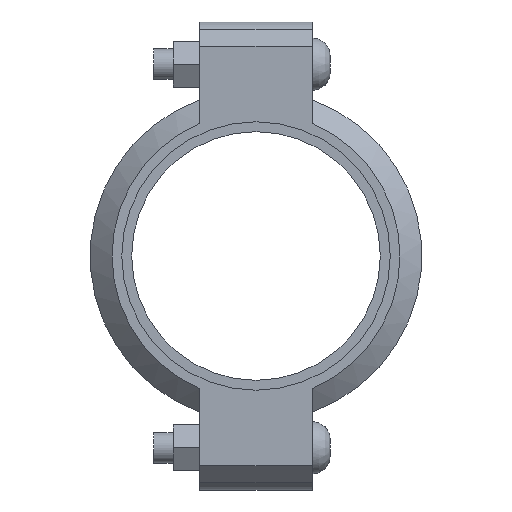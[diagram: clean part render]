
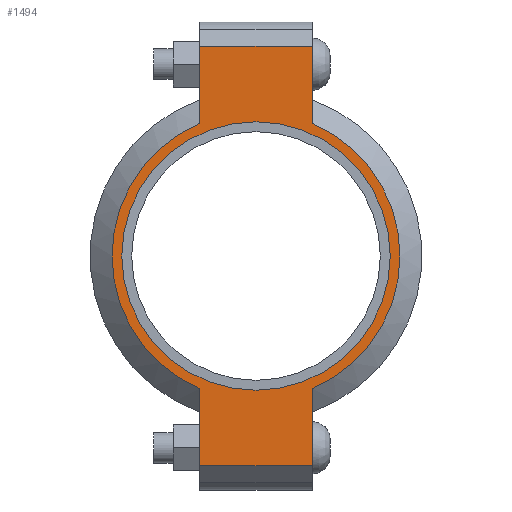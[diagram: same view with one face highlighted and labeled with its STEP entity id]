
A CAD part, left-side view. The second image highlights one B-rep face of the part: STEP entity #1494.
In plain terms, the highlighted planar face has unit normal (-1, 0, 0) as drawn and (0, 0, 1) by its records, which use the part's own axes.
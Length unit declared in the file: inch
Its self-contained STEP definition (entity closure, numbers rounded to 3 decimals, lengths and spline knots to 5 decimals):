
#118=LINE('',#2616,#211);
#126=LINE('',#2652,#219);
#133=LINE('',#2673,#226);
#142=LINE('',#2705,#235);
#143=LINE('',#2709,#236);
#144=LINE('',#2711,#237);
#211=VECTOR('',#2144,0.3937);
#219=VECTOR('',#2160,0.3937);
#226=VECTOR('',#2179,0.3937);
#235=VECTOR('',#2204,0.3937);
#236=VECTOR('',#2209,0.3937);
#237=VECTOR('',#2210,0.3937);
#293=FACE_BOUND('',#471,.T.);
#365=FACE_OUTER_BOUND('',#470,.T.);
#470=EDGE_LOOP('',(#1235,#1236,#1237,#1238,#1239,#1240,#1241,#1242));
#471=EDGE_LOOP('',(#1243));
#543=CIRCLE('',#1722,2.75);
#569=CIRCLE('',#1781,2.95);
#570=CIRCLE('',#1782,2.95);
#635=VERTEX_POINT('',#2432);
#678=VERTEX_POINT('',#2613);
#679=VERTEX_POINT('',#2615);
#690=VERTEX_POINT('',#2647);
#691=VERTEX_POINT('',#2651);
#698=VERTEX_POINT('',#2670);
#699=VERTEX_POINT('',#2672);
#709=VERTEX_POINT('',#2708);
#710=VERTEX_POINT('',#2710);
#791=EDGE_CURVE('',#635,#635,#543,.T.);
#852=EDGE_CURVE('',#679,#678,#118,.T.);
#866=EDGE_CURVE('',#691,#690,#126,.T.);
#876=EDGE_CURVE('',#699,#698,#133,.T.);
#891=EDGE_CURVE('',#691,#678,#142,.T.);
#892=EDGE_CURVE('',#690,#699,#569,.T.);
#893=EDGE_CURVE('',#709,#698,#143,.T.);
#894=EDGE_CURVE('',#709,#710,#144,.T.);
#895=EDGE_CURVE('',#710,#679,#570,.T.);
#1235=ORIENTED_EDGE('',*,*,#891,.F.);
#1236=ORIENTED_EDGE('',*,*,#866,.T.);
#1237=ORIENTED_EDGE('',*,*,#892,.T.);
#1238=ORIENTED_EDGE('',*,*,#876,.T.);
#1239=ORIENTED_EDGE('',*,*,#893,.F.);
#1240=ORIENTED_EDGE('',*,*,#894,.T.);
#1241=ORIENTED_EDGE('',*,*,#895,.T.);
#1242=ORIENTED_EDGE('',*,*,#852,.T.);
#1243=ORIENTED_EDGE('',*,*,#791,.T.);
#1336=PLANE('',#1780);
#1494=ADVANCED_FACE('',(#365,#293),#1336,.T.);
#1722=AXIS2_PLACEMENT_3D('',#2434,#2020,#2021);
#1780=AXIS2_PLACEMENT_3D('',#2706,#2205,#2206);
#1781=AXIS2_PLACEMENT_3D('',#2707,#2207,#2208);
#1782=AXIS2_PLACEMENT_3D('',#2712,#2211,#2212);
#2020=DIRECTION('center_axis',(0.,0.,-1.));
#2021=DIRECTION('ref_axis',(1.,0.,0.));
#2144=DIRECTION('',(1.,0.,0.));
#2160=DIRECTION('',(-1.,0.,0.));
#2179=DIRECTION('',(-1.,0.,0.));
#2204=DIRECTION('',(0.,-1.,0.));
#2205=DIRECTION('center_axis',(0.,0.,1.));
#2206=DIRECTION('ref_axis',(-1.,0.,0.));
#2207=DIRECTION('center_axis',(0.,0.,1.));
#2208=DIRECTION('ref_axis',(1.,0.,0.));
#2209=DIRECTION('',(0.,1.,0.));
#2210=DIRECTION('',(1.,0.,0.));
#2211=DIRECTION('center_axis',(0.,0.,1.));
#2212=DIRECTION('ref_axis',(1.,0.,0.));
#2432=CARTESIAN_POINT('',(-2.75,0.,1.065));
#2434=CARTESIAN_POINT('Origin',(0.,0.,1.065));
#2613=CARTESIAN_POINT('',(4.295,-1.15,1.065));
#2615=CARTESIAN_POINT('',(2.71662,-1.15,1.065));
#2616=CARTESIAN_POINT('',(4.795,-1.15,1.065));
#2647=CARTESIAN_POINT('',(2.71662,1.15,1.065));
#2651=CARTESIAN_POINT('',(4.295,1.15,1.065));
#2652=CARTESIAN_POINT('',(-4.795,1.15,1.065));
#2670=CARTESIAN_POINT('',(-4.295,1.15,1.065));
#2672=CARTESIAN_POINT('',(-2.71662,1.15,1.065));
#2673=CARTESIAN_POINT('',(-4.795,1.15,1.065));
#2705=CARTESIAN_POINT('',(4.295,-0.575,1.065));
#2706=CARTESIAN_POINT('Origin',(0.,0.,
1.065));
#2707=CARTESIAN_POINT('Origin',(0.,0.,1.065));
#2708=CARTESIAN_POINT('',(-4.295,-1.15,1.065));
#2709=CARTESIAN_POINT('',(-4.295,0.575,1.065));
#2710=CARTESIAN_POINT('',(-2.71662,-1.15,1.065));
#2711=CARTESIAN_POINT('',(4.795,-1.15,1.065));
#2712=CARTESIAN_POINT('Origin',(0.,0.,1.065));
